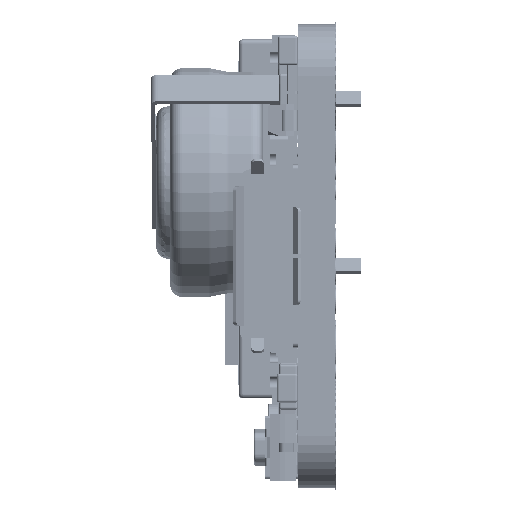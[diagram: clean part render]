
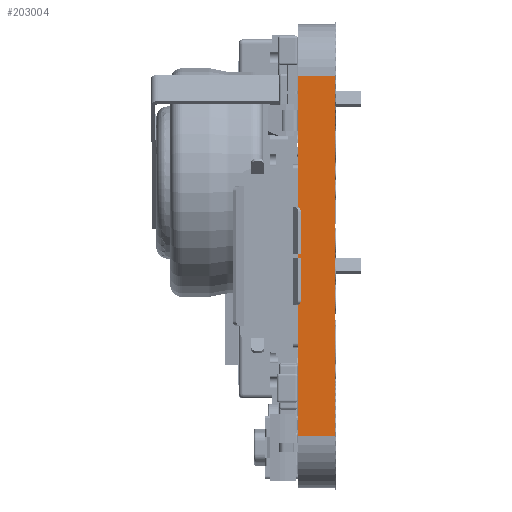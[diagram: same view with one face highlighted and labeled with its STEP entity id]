
A CAD part, left-side view. The second image highlights one B-rep face of the part: STEP entity #203004.
In plain terms, the highlighted planar face has unit normal (-1, 0, 0).
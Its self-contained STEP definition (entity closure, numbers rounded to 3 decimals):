
#66068 = VERTEX_POINT ( 'NONE', #86498 ) ;
#74699 = EDGE_CURVE ( 'NONE', #76503, #66068, #120387, .T. ) ;
#74707 = EDGE_CURVE ( 'NONE', #76790, #76174, #120400, .T. ) ;
#74908 = EDGE_CURVE ( 'NONE', #76542, #76758, #120906, .T. ) ;
#74911 = EDGE_CURVE ( 'NONE', #76186, #76503, #120918, .T. ) ;
#74912 = EDGE_CURVE ( 'NONE', #76412, #76186, #120922, .T. ) ;
#74913 = EDGE_CURVE ( 'NONE', #76412, #76070, #120925, .T. ) ;
#74915 = EDGE_CURVE ( 'NONE', #76070, #76001, #120929, .T. ) ;
#74917 = EDGE_CURVE ( 'NONE', #76001, #76542, #120933, .T. ) ;
#74918 = EDGE_CURVE ( 'NONE', #76758, #76174, #120937, .T. ) ;
#74920 = EDGE_CURVE ( 'NONE', #66068, #76790, #120940, .T. ) ;
#76001 = VERTEX_POINT ( 'NONE', #130091 ) ;
#76070 = VERTEX_POINT ( 'NONE', #130160 ) ;
#76174 = VERTEX_POINT ( 'NONE', #130273 ) ;
#76186 = VERTEX_POINT ( 'NONE', #130285 ) ;
#76412 = VERTEX_POINT ( 'NONE', #130598 ) ;
#76503 = VERTEX_POINT ( 'NONE', #130744 ) ;
#76542 = VERTEX_POINT ( 'NONE', #130808 ) ;
#76758 = VERTEX_POINT ( 'NONE', #131094 ) ;
#76790 = VERTEX_POINT ( 'NONE', #131128 ) ;
#86498 = CARTESIAN_POINT ( 'NONE',  ( 100., 0., -113.862 ) ) ;
#94500 = FACE_OUTER_BOUND ( 'NONE', #115481, .T. ) ;
#115481 = EDGE_LOOP ( 'NONE', ( #250925, #250927, #250930, #250933, #250936, #250939, #250941, #250944, #250946, #250949 ) ) ;
#118905 = CARTESIAN_POINT ( 'NONE',  ( 100., 0., -102.25 ) ) ;
#118907 = DIRECTION ( 'NONE',  ( 0., 0., 1. ) ) ;
#118927 = CARTESIAN_POINT ( 'NONE',  ( 100., 0., -102.25 ) ) ;
#118929 = DIRECTION ( 'NONE',  ( 0., 0., 1. ) ) ;
#119588 = CARTESIAN_POINT ( 'NONE',  ( 100., -1.6, -102.25 ) ) ;
#119590 = DIRECTION ( 'NONE',  ( 0., 1., 0. ) ) ;
#119604 = CARTESIAN_POINT ( 'NONE',  ( 100., 0., -102.25 ) ) ;
#119606 = DIRECTION ( 'NONE',  ( 0., 0., 1. ) ) ;
#119608 = CARTESIAN_POINT ( 'NONE',  ( 100., -1.6, -117.75 ) ) ;
#119610 = DIRECTION ( 'NONE',  ( 0., 1., 0. ) ) ;
#119613 = CARTESIAN_POINT ( 'NONE',  ( 100., -1.6, -102.25 ) ) ;
#119615 = DIRECTION ( 'NONE',  ( 0., 0., 1. ) ) ;
#119617 = CARTESIAN_POINT ( 'NONE',  ( 100., -1.6, -102.25 ) ) ;
#119619 = DIRECTION ( 'NONE',  ( 0., 0., 1. ) ) ;
#119622 = CARTESIAN_POINT ( 'NONE',  ( 100., -1.6, -102.25 ) ) ;
#119624 = DIRECTION ( 'NONE',  ( 0., 0., 1. ) ) ;
#119626 = CARTESIAN_POINT ( 'NONE',  ( 100., 0., -102.25 ) ) ;
#119628 = DIRECTION ( 'NONE',  ( 0., 0., -1. ) ) ;
#119631 = CARTESIAN_POINT ( 'NONE',  ( 100., 0., -102.25 ) ) ;
#119633 = DIRECTION ( 'NONE',  ( 0., 0., 1. ) ) ;
#120387 = LINE ( 'NONE', #118905, #120391 ) ;
#120391 = VECTOR ( 'NONE', #118907, 1000. ) ;
#120400 = LINE ( 'NONE', #118927, #120404 ) ;
#120404 = VECTOR ( 'NONE', #118929, 1000. ) ;
#120906 = LINE ( 'NONE', #119588, #120909 ) ;
#120909 = VECTOR ( 'NONE', #119590, 1000. ) ;
#120918 = LINE ( 'NONE', #119604, #120920 ) ;
#120920 = VECTOR ( 'NONE', #119606, 1000. ) ;
#120922 = LINE ( 'NONE', #119608, #120923 ) ;
#120923 = VECTOR ( 'NONE', #119610, 1000. ) ;
#120925 = LINE ( 'NONE', #119613, #120927 ) ;
#120927 = VECTOR ( 'NONE', #119615, 1000. ) ;
#120929 = LINE ( 'NONE', #119617, #120931 ) ;
#120931 = VECTOR ( 'NONE', #119619, 1000. ) ;
#120933 = LINE ( 'NONE', #119622, #120935 ) ;
#120935 = VECTOR ( 'NONE', #119624, 1000. ) ;
#120937 = LINE ( 'NONE', #119626, #120938 ) ;
#120938 = VECTOR ( 'NONE', #119628, 1000. ) ;
#120940 = LINE ( 'NONE', #119631, #120942 ) ;
#120942 = VECTOR ( 'NONE', #119633, 1000. ) ;
#130091 = CARTESIAN_POINT ( 'NONE',  ( 100., -1.6, -102.929 ) ) ;
#130160 = CARTESIAN_POINT ( 'NONE',  ( 100., -1.6, -117.071 ) ) ;
#130273 = CARTESIAN_POINT ( 'NONE',  ( 100., 0., -102.929 ) ) ;
#130285 = CARTESIAN_POINT ( 'NONE',  ( 100., 0., -117.75 ) ) ;
#130598 = CARTESIAN_POINT ( 'NONE',  ( 100., -1.6, -117.75 ) ) ;
#130744 = CARTESIAN_POINT ( 'NONE',  ( 100., 0., -117.071 ) ) ;
#130808 = CARTESIAN_POINT ( 'NONE',  ( 100., -1.6, -102.25 ) ) ;
#131094 = CARTESIAN_POINT ( 'NONE',  ( 100., 0., -102.25 ) ) ;
#131128 = CARTESIAN_POINT ( 'NONE',  ( 100., 0., -106.163 ) ) ;
#146175 = PLANE ( 'NONE',  #218171 ) ;
#146176 = CARTESIAN_POINT ( 'NONE',  ( 100., -1.6, -102.25 ) ) ;
#146179 = DIRECTION ( 'NONE',  ( -1., 0., 0. ) ) ;
#146181 = DIRECTION ( 'NONE',  ( 0., 0., 1. ) ) ;
#203004 = ADVANCED_FACE ( 'NONE', ( #94500 ), #146175, .T. ) ;
#218171 = AXIS2_PLACEMENT_3D ( 'NONE', #146176, #146179, #146181 ) ;
#250925 = ORIENTED_EDGE ( 'NONE', *, *, #74911, .F. ) ;
#250927 = ORIENTED_EDGE ( 'NONE', *, *, #74912, .F. ) ;
#250930 = ORIENTED_EDGE ( 'NONE', *, *, #74913, .T. ) ;
#250933 = ORIENTED_EDGE ( 'NONE', *, *, #74915, .T. ) ;
#250936 = ORIENTED_EDGE ( 'NONE', *, *, #74917, .T. ) ;
#250939 = ORIENTED_EDGE ( 'NONE', *, *, #74908, .T. ) ;
#250941 = ORIENTED_EDGE ( 'NONE', *, *, #74918, .T. ) ;
#250944 = ORIENTED_EDGE ( 'NONE', *, *, #74707, .F. ) ;
#250946 = ORIENTED_EDGE ( 'NONE', *, *, #74920, .F. ) ;
#250949 = ORIENTED_EDGE ( 'NONE', *, *, #74699, .F. ) ;
